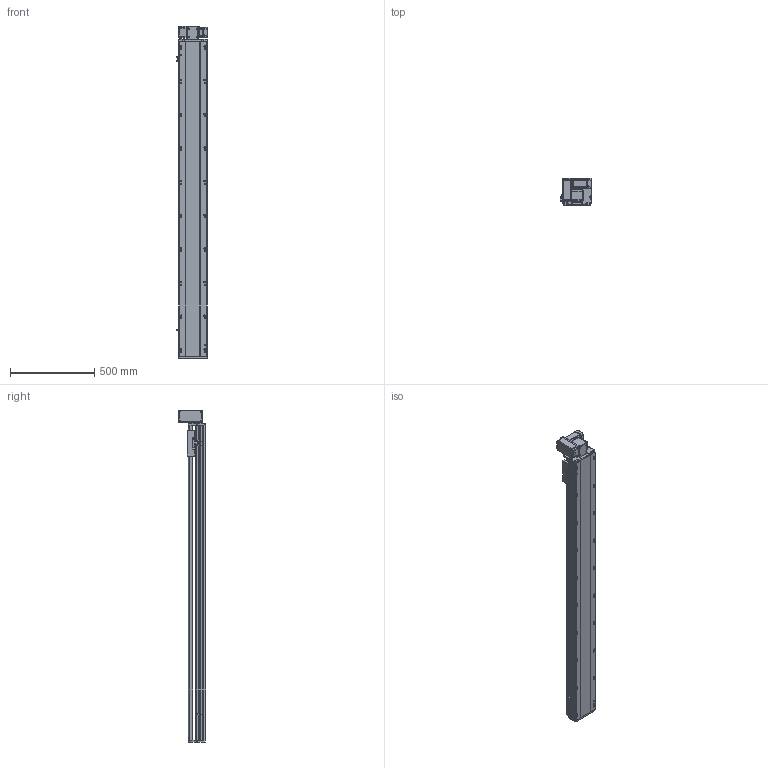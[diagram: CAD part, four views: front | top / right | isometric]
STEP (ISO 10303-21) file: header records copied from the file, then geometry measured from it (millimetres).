
FILE_DESCRIPTION (( 'STEP AP214' ), '1' );
FILE_NAME ('RTB17S-XX-1600-LW-M40-C4.STEP', '2025-12-11T07:09:20', ( '' ), ( '' ), 'SwSTEP 2.0', 'SolidWorks 2018', '' );
FILE_SCHEMA (( 'AUTOMOTIVE_DESIGN' ));
Length unit declared in the file: millimetre
Products named in the file (14): RTH13-BL-012覜茼え俋离^RTB17S-XX-XX-LW-M40-C4; OMRON EE-SX672 传感器^RTB17S-XX-XX-LW-M40-C4; RTB17S-L-001耜醱啣^RTB17S-XX-XX-LW-M40-C4; RTB14-L-008-M20--萇儂啣^RTB17S-LW-々湍釱蚾饜-400W_RTB17S-XX-XX-LW-M40-C4; RTB17-R-011菁釱^RTB17S-XX-XX-LW-M40-C4; RTB17S-XX-1600-LW-M40-C4; 400W侜督萇儂^RTB17S-XX-XX-LW-M40-C4; RTB14-L-005P--轴承塑胶压盖^RTB17S-LW-皮带座装配-400W_RTB17S-XX-XX-LW-M40-C4; RTB17S-L-004佪裝蹟譫蟀諉釱^RTB17S-XX-XX-LW-M40-C4; RTB17S-L-007奻裔^RTB17S-XX-XX-LW-M40-C4; RTB14-L-017P^RTB17S-LW-々湍釱蚾饜-400W_RTB17S-XX-XX-LW-M40-C4; RTB17S-L-014-T20--々湍釱^RTB17S-LW-々湍釱蚾饜-400W_RTB17S-XX-XX-LW-M40-C4; RTB17S-LW-々湍釱蚾饜-400W^RTB17S-XX-XX-LW-M40-C4; RTB14-L-018P^RTB17S-LW-々湍釱蚾饜-400W_RTB17S-XX-XX-LW-M40-C4
Assembly tree (16 placements, depth 3):
  RTB17S-XX-1600-LW-M40-C4
    RTB17-R-011菁釱^RTB17S-XX-XX-LW-M40-C4
    RTB17S-L-007奻裔^RTB17S-XX-XX-LW-M40-C4
    OMRON EE-SX672 传感器^RTB17S-XX-XX-LW-M40-C4  x3
    RTB17S-L-001耜醱啣^RTB17S-XX-XX-LW-M40-C4
    400W侜督萇儂^RTB17S-XX-XX-LW-M40-C4
    RTB17S-L-004佪裝蹟譫蟀諉釱^RTB17S-XX-XX-LW-M40-C4
    RTH13-BL-012覜茼え俋离^RTB17S-XX-XX-LW-M40-C4
    RTB17S-LW-々湍釱蚾饜-400W^RTB17S-XX-XX-LW-M40-C4
      RTB17S-L-014-T20--々湍釱^RTB17S-LW-々湍釱蚾饜-400W_RTB17S-XX-XX-LW-M40-C4
      RTB14-L-005P--轴承塑胶压盖^RTB17S-LW-皮带座装配-400W_RTB17S-XX-XX-LW-M40-C4
      RTB14-L-008-M20--萇儂啣^RTB17S-LW-々湍釱蚾饜-400W_RTB17S-XX-XX-LW-M40-C4
      RTB14-L-017P^RTB17S-LW-々湍釱蚾饜-400W_RTB17S-XX-XX-LW-M40-C4  x2
      RTB14-L-018P^RTB17S-LW-々湍釱蚾饜-400W_RTB17S-XX-XX-LW-M40-C4
Bounding box: 186 x 160.5 x 1972.5 mm (x, y, z)
Volume: 17269930.2 mm3; surface area: 2030740.4 mm2
Topology: 15 solids, 15 shells, 2253 faces, 6249 edges, 4077 vertices
Faces by surface type: plane 1074, cylinder 731, bspline 301, cone 139, torus 8
Entity records: 64937 total; most frequent: CARTESIAN_POINT 18254, ORIENTED_EDGE 9342, DIRECTION 8666, EDGE_CURVE 4671, VERTEX_POINT 3065, AXIS2_PLACEMENT_3D 2995, LINE 2676, VECTOR 2676
